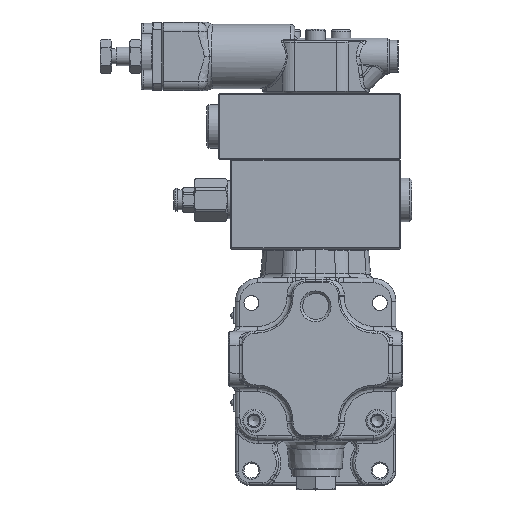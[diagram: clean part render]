
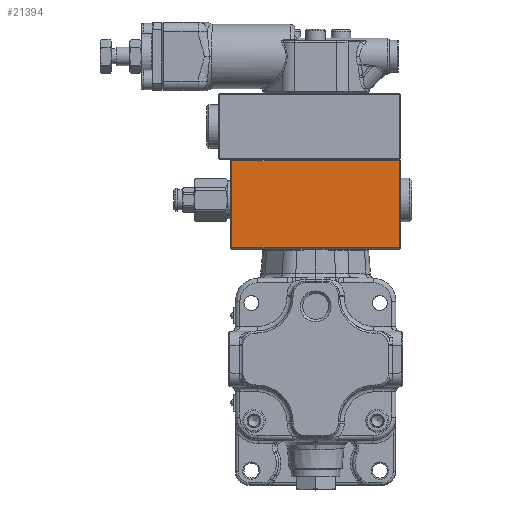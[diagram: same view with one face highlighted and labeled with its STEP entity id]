
A CAD part, top view. The second image highlights one B-rep face of the part: STEP entity #21394.
In plain terms, the highlighted planar face has unit normal (0, 0, 1).
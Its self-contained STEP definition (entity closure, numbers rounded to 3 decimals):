
#1384=PLANE('',#23307);
#3124=FACE_OUTER_BOUND('',#4456,.T.);
#4456=EDGE_LOOP('',(#18542,#18543,#18544,#18545));
#5797=LINE('',#60044,#7153);
#5798=LINE('',#60046,#7154);
#5799=LINE('',#60048,#7155);
#5800=LINE('',#60049,#7156);
#7153=VECTOR('',#28360,10.);
#7154=VECTOR('',#28361,10.);
#7155=VECTOR('',#28362,10.);
#7156=VECTOR('',#28363,10.);
#9783=VERTEX_POINT('',#60042);
#9784=VERTEX_POINT('',#60043);
#9785=VERTEX_POINT('',#60045);
#9786=VERTEX_POINT('',#60047);
#12710=EDGE_CURVE('',#9783,#9784,#5797,.T.);
#12711=EDGE_CURVE('',#9785,#9783,#5798,.T.);
#12712=EDGE_CURVE('',#9786,#9785,#5799,.T.);
#12713=EDGE_CURVE('',#9784,#9786,#5800,.T.);
#18542=ORIENTED_EDGE('',*,*,#12710,.F.);
#18543=ORIENTED_EDGE('',*,*,#12711,.F.);
#18544=ORIENTED_EDGE('',*,*,#12712,.F.);
#18545=ORIENTED_EDGE('',*,*,#12713,.F.);
#21394=ADVANCED_FACE('',(#3124),#1384,.T.);
#23307=AXIS2_PLACEMENT_3D('',#60041,#28358,#28359);
#28358=DIRECTION('center_axis',(0.,0.,
1.));
#28359=DIRECTION('ref_axis',(1.,0.,0.));
#28360=DIRECTION('',(-1.,0.,0.));
#28361=DIRECTION('',(0.,-1.,0.));
#28362=DIRECTION('',(1.,0.,0.));
#28363=DIRECTION('',(0.,1.,0.));
#60041=CARTESIAN_POINT('Origin',(-45.616,48.311,14.052));
#60042=CARTESIAN_POINT('',(27.884,48.811,14.052));
#60043=CARTESIAN_POINT('',(-45.116,48.811,14.052));
#60044=CARTESIAN_POINT('',(-27.116,48.811,14.052));
#60045=CARTESIAN_POINT('',(27.884,86.811,14.052));
#60046=CARTESIAN_POINT('',(27.884,48.311,14.052));
#60047=CARTESIAN_POINT('',(-45.116,86.811,14.052));
#60048=CARTESIAN_POINT('',(-27.116,86.811,14.052));
#60049=CARTESIAN_POINT('',(-45.116,48.311,14.052));
